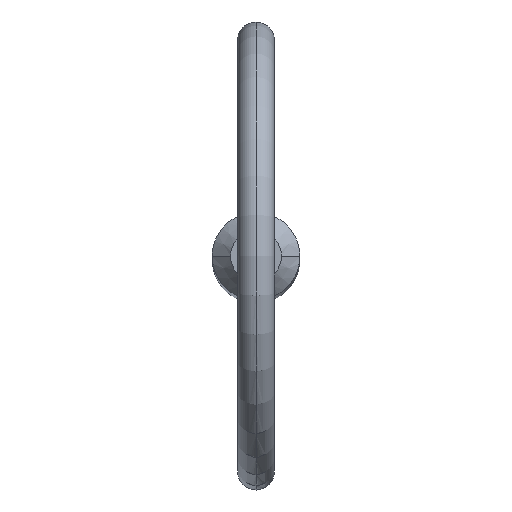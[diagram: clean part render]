
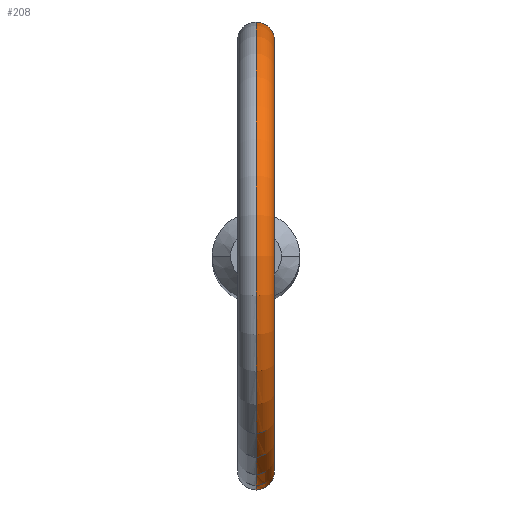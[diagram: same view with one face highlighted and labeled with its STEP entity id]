
A CAD part, top view. The second image highlights one B-rep face of the part: STEP entity #208.
In plain terms, the highlighted toroidal (fillet/blend) face has major radius 11.7 mm and minor radius 1 mm.
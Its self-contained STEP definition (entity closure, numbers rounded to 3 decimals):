
#24 = ORIENTED_EDGE ( 'NONE', *, *, #371, .F. ) ;
#26 = CARTESIAN_POINT ( 'NONE',  ( 0.267, 2.368, 91.137 ) ) ;
#30 = CARTESIAN_POINT ( 'NONE',  ( 0.513, 2.327, 89.249 ) ) ;
#56 = DIRECTION ( 'NONE',  ( 0., 0., -1. ) ) ;
#57 = CARTESIAN_POINT ( 'NONE',  ( 0.884, 2.21, 89.617 ) ) ;
#59 = CARTESIAN_POINT ( 'NONE',  ( 0.981, 2.169, 89.862 ) ) ;
#61 = CARTESIAN_POINT ( 'NONE',  ( 0.885, -2.21, 89.617 ) ) ;
#65 = CARTESIAN_POINT ( 'NONE',  ( 0., -2.38, 89.125 ) ) ;
#92 = CARTESIAN_POINT ( 'NONE',  ( 0.981, -2.169, 89.864 ) ) ;
#95 = CARTESIAN_POINT ( 'NONE',  ( 0., 2.38, 91.168 ) ) ;
#96 = CARTESIAN_POINT ( 'NONE',  ( 0., 2.38, 89.125 ) ) ;
#100 = CARTESIAN_POINT ( 'NONE',  ( 0.133, 2.38, 89.125 ) ) ;
#130 = DIRECTION ( 'NONE',  ( 0., 0., -1. ) ) ;
#132 = CARTESIAN_POINT ( 'NONE',  ( 0.508, -2.328, 91.024 ) ) ;
#134 = CARTESIAN_POINT ( 'NONE',  ( 0.614, 2.301, 90.945 ) ) ;
#139 = CARTESIAN_POINT ( 'NONE',  ( 0.513, -2.327, 89.248 ) ) ;
#142 = CIRCLE ( 'NONE', #424, 10.7 ) ;
#146 = ORIENTED_EDGE ( 'NONE', *, *, #365, .F. ) ;
#164 = CARTESIAN_POINT ( 'NONE',  ( 0.793, -2.246, 90.752 ) ) ;
#166 = CARTESIAN_POINT ( 'NONE',  ( 0.134, 2.38, 91.168 ) ) ;
#187 = B_SPLINE_CURVE_WITH_KNOTS ( 'NONE', 3,
 ( #421, #470, #336, #132, #199, #164, #345, #270, #376, #239, #92, #61, #234, #460, #139, #380, #232, #415 ),
 .UNSPECIFIED., .F., .F.,
 ( 4, 2, 2, 2, 2, 2, 2, 2, 4 ),
 ( 0.003, 0.003, 0.003, 0.004, 0.004, 0.005, 0.005, 0.005, 0.006 ),
 .UNSPECIFIED. ) ;
#195 = AXIS2_PLACEMENT_3D ( 'NONE', #328, #253, #56 ) ;
#196 = CARTESIAN_POINT ( 'NONE',  ( 0.625, 2.299, 89.321 ) ) ;
#199 = CARTESIAN_POINT ( 'NONE',  ( 0.615, -2.301, 90.944 ) ) ;
#203 = CARTESIAN_POINT ( 'NONE',  ( 0.267, 2.368, 89.15 ) ) ;
#208 = ADVANCED_FACE ( 'NONE', ( #310 ), #211, .T. ) ;
#211 = TOROIDAL_SURFACE ( 'NONE', #195, 11.7, 1. ) ;
#222 = VERTEX_POINT ( 'NONE', #260 ) ;
#229 = DIRECTION ( 'NONE',  ( 0., 0., -1. ) ) ;
#232 = CARTESIAN_POINT ( 'NONE',  ( 0.133, -2.38, 89.125 ) ) ;
#234 = CARTESIAN_POINT ( 'NONE',  ( 0.811, -2.24, 89.506 ) ) ;
#239 = CARTESIAN_POINT ( 'NONE',  ( 1.003, -2.158, 89.999 ) ) ;
#253 = DIRECTION ( 'NONE',  ( 1., 0., 0. ) ) ;
#258 = AXIS2_PLACEMENT_3D ( 'NONE', #446, #456, #229 ) ;
#260 = CARTESIAN_POINT ( 'NONE',  ( 0., -2.38, 91.168 ) ) ;
#262 = CARTESIAN_POINT ( 'NONE',  ( 1.003, 2.158, 89.997 ) ) ;
#270 = CARTESIAN_POINT ( 'NONE',  ( 0.966, -2.176, 90.397 ) ) ;
#290 = EDGE_LOOP ( 'NONE', ( #24, #454, #427, #146 ) ) ;
#296 = CARTESIAN_POINT ( 'NONE',  ( 0., 2.38, 89.125 ) ) ;
#298 = CARTESIAN_POINT ( 'NONE',  ( 0., 0., 101.6 ) ) ;
#299 = CARTESIAN_POINT ( 'NONE',  ( 0.864, 2.218, 90.641 ) ) ;
#304 = EDGE_CURVE ( 'NONE', #312, #324, #444, .T. ) ;
#310 = FACE_OUTER_BOUND ( 'NONE', #290, .T. ) ;
#312 = VERTEX_POINT ( 'NONE', #296 ) ;
#324 = VERTEX_POINT ( 'NONE', #65 ) ;
#328 = CARTESIAN_POINT ( 'NONE',  ( 0., 0., 101.6 ) ) ;
#336 = CARTESIAN_POINT ( 'NONE',  ( 0.268, -2.368, 91.137 ) ) ;
#341 = CARTESIAN_POINT ( 'NONE',  ( 0.996, 2.162, 90.264 ) ) ;
#345 = CARTESIAN_POINT ( 'NONE',  ( 0.865, -2.218, 90.64 ) ) ;
#348 = EDGE_CURVE ( 'NONE', #222, #324, #187, .T. ) ;
#365 = EDGE_CURVE ( 'NONE', #411, #222, #142, .T. ) ;
#371 = EDGE_CURVE ( 'NONE', #312, #411, #449, .T. ) ;
#376 = CARTESIAN_POINT ( 'NONE',  ( 0.996, -2.162, 90.264 ) ) ;
#380 = CARTESIAN_POINT ( 'NONE',  ( 0.268, -2.368, 89.151 ) ) ;
#383 = CARTESIAN_POINT ( 'NONE',  ( 0.509, 2.328, 91.024 ) ) ;
#411 = VERTEX_POINT ( 'NONE', #95 ) ;
#414 = DIRECTION ( 'NONE',  ( 1., 0., 0. ) ) ;
#415 = CARTESIAN_POINT ( 'NONE',  ( 0., -2.38, 89.125 ) ) ;
#417 = CARTESIAN_POINT ( 'NONE',  ( 0.811, 2.24, 89.506 ) ) ;
#421 = CARTESIAN_POINT ( 'NONE',  ( 0., -2.38, 91.168 ) ) ;
#424 = AXIS2_PLACEMENT_3D ( 'NONE', #298, #414, #130 ) ;
#427 = ORIENTED_EDGE ( 'NONE', *, *, #348, .F. ) ;
#444 = CIRCLE ( 'NONE', #258, 12.7 ) ;
#446 = CARTESIAN_POINT ( 'NONE',  ( 0., 0., 101.6 ) ) ;
#449 = B_SPLINE_CURVE_WITH_KNOTS ( 'NONE', 3,
 ( #96, #100, #203, #30, #196, #417, #57, #59, #262, #341, #459, #299, #465, #134, #383, #26, #166, #468 ),
 .UNSPECIFIED., .F., .F.,
 ( 4, 2, 2, 2, 2, 2, 2, 2, 4 ),
 ( 0.001, 0.001, 0.001, 0.002, 0.002, 0.003, 0.003, 0.003, 0.004 ),
 .UNSPECIFIED. ) ;
#454 = ORIENTED_EDGE ( 'NONE', *, *, #304, .T. ) ;
#456 = DIRECTION ( 'NONE',  ( 1., 0., 0. ) ) ;
#459 = CARTESIAN_POINT ( 'NONE',  ( 0.966, 2.176, 90.397 ) ) ;
#460 = CARTESIAN_POINT ( 'NONE',  ( 0.625, -2.299, 89.321 ) ) ;
#465 = CARTESIAN_POINT ( 'NONE',  ( 0.793, 2.246, 90.753 ) ) ;
#468 = CARTESIAN_POINT ( 'NONE',  ( 0., 2.38, 91.168 ) ) ;
#470 = CARTESIAN_POINT ( 'NONE',  ( 0.134, -2.38, 91.168 ) ) ;
